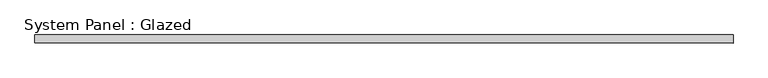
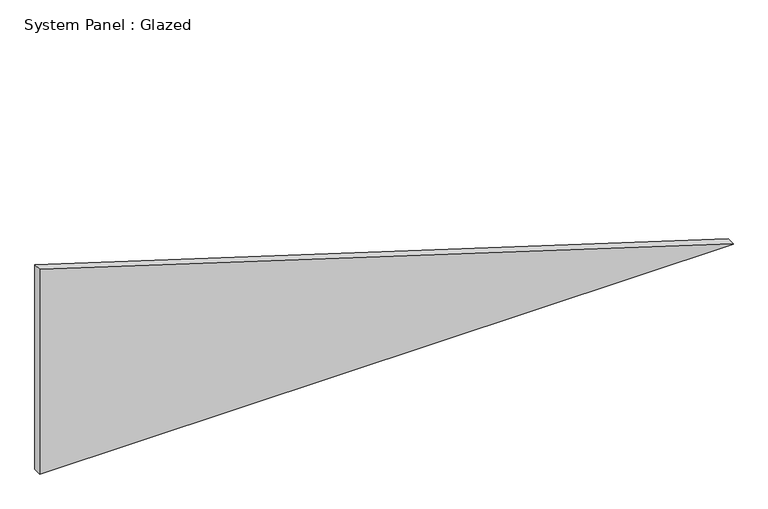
"""IFC4 building model written with IfcOpenShell, lengths in millimetres: plate geometry, System Panel : Glazed."""

from ifc_helpers import new_model, si_unit, frame, origin, place, context, project, spatial, polyline, outline, extrude, source, transform, mapped, element, save


def system_panel_glazed_3cf833cb(model_context):
    return source(origin(), model_context, "Body", "SweptSolid", [
        extrude(outline(polyline([(0.0, -1098.686026), (0.0, 1098.686026), (2.7872595, 1098.686026), (686.284115, -1098.686026), (0.0, -1098.686026)])), frame((0.0, 19.05, 0.0), z_axis=(0.0, 1.0, 0.0), x_axis=(0.0, 0.0, 1.0)), (0.0, 0.0, 1.0), 25.4),
    ])


if __name__ == "__main__":
    model = new_model("IFC4")
    model_context = context("Model", 3, world=origin())
    ifc_project = project(units=[si_unit("LENGTHUNIT", "METRE", prefix="MILLI")], contexts=[model_context])
    site = spatial("IfcSite", under=ifc_project)
    building = spatial("IfcBuilding", under=site)
    placement = place(None, origin())
    system_panel_glazed_shape = system_panel_glazed_3cf833cb(model_context)
    element("IfcPlate", 1, ObjectType="System Panel : Glazed", at=placement, inside=building, context=model_context, shape_type="MappedRepresentation", body=[
        mapped(system_panel_glazed_shape, transform((0.0, 0.0, 0.0), x_axis=(1.0, 0.0, 0.0), y_axis=(0.0, 1.0, 0.0), z_axis=(0.0, 0.0, 1.0))),
    ])
    save(model, "model.ifc")
